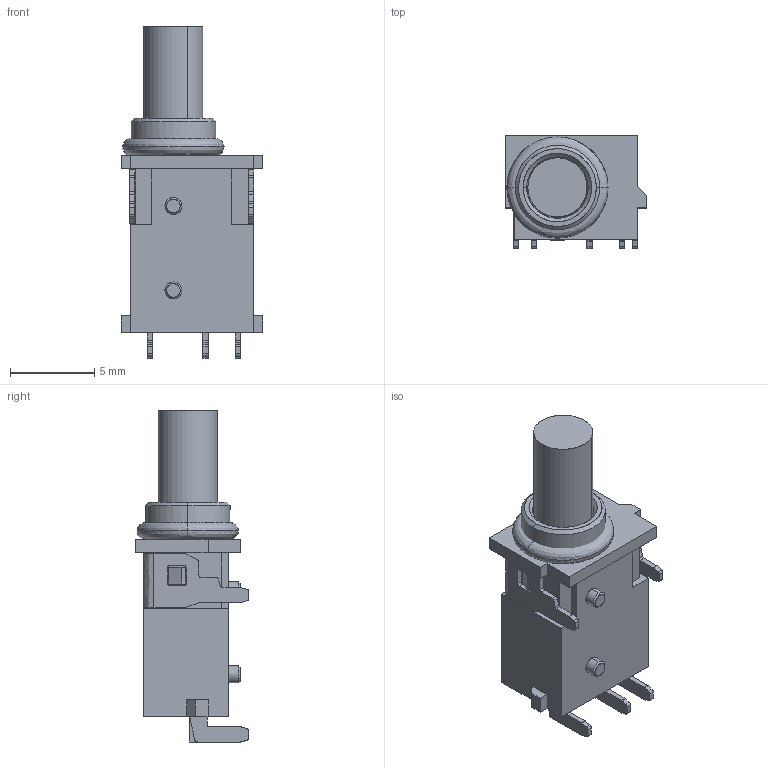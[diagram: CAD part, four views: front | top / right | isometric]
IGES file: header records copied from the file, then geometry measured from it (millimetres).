
Start section: SolidWorks IGES file using analytic representation for surfaces
Global section: file name: E:\===Jeff===\2. DWG\DC030+031＃＃\030\3D\A0\to＃＃\DCJR0030-F04J1BR-A000.IGS; native system: SolidWorks 2015; preprocessor: SolidWorks 2015; author: Administrator; date: 221020.104816; units: millimetre
Bounding box: 8.4 x 6.7 x 19.66 mm (x, y, z)
Surface area: 1170.8 mm2 (no closed solid volume)
Topology: 0 solids, 0 shells, 525 faces, 4001 edges, 4000 vertices
Faces by surface type: bspline 370, revolution 155
